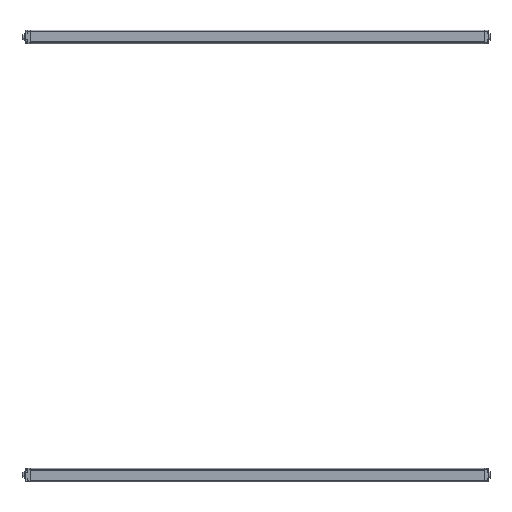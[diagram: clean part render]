
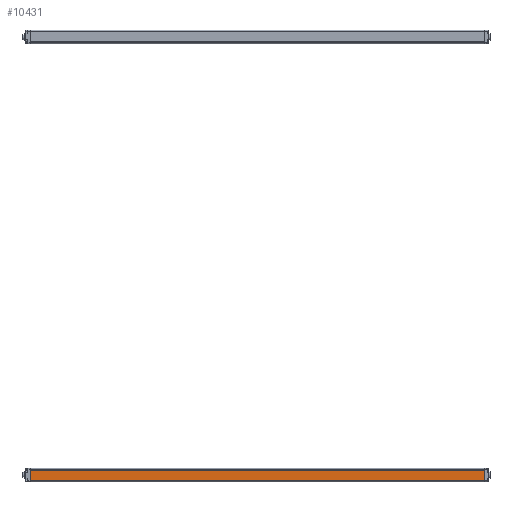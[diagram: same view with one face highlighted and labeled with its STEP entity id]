
A CAD part, front view. The second image highlights one B-rep face of the part: STEP entity #10431.
In plain terms, the highlighted planar face has unit normal (0, -1, 0) as drawn and (0, 1, 0) by its records, which use the part's own axes.
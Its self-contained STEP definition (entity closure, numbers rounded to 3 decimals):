
#754=LINE('',#15338,#1927);
#824=LINE('',#15490,#1997);
#918=LINE('',#15690,#2091);
#919=LINE('',#15691,#2092);
#1927=VECTOR('',#12160,1000.);
#1997=VECTOR('',#12258,1000.);
#2091=VECTOR('',#12444,1000.);
#2092=VECTOR('',#12445,1000.);
#3410=ORIENTED_EDGE('',*,*,#6192,.F.);
#3411=ORIENTED_EDGE('',*,*,#6294,.F.);
#3412=ORIENTED_EDGE('',*,*,#6115,.T.);
#3413=ORIENTED_EDGE('',*,*,#6295,.T.);
#6115=EDGE_CURVE('',#7621,#7620,#754,.T.);
#6192=EDGE_CURVE('',#7688,#7689,#824,.T.);
#6294=EDGE_CURVE('',#7621,#7688,#918,.T.);
#6295=EDGE_CURVE('',#7620,#7689,#919,.T.);
#7620=VERTEX_POINT('',#15337);
#7621=VERTEX_POINT('',#15339);
#7688=VERTEX_POINT('',#15489);
#7689=VERTEX_POINT('',#15491);
#8881=EDGE_LOOP('',(#3410,#3411,#3412,#3413));
#9465=FACE_BOUND('',#8881,.T.);
#10046=PLANE('',#11081);
#10431=ADVANCED_FACE('',(#9465),#10046,.T.);
#11081=AXIS2_PLACEMENT_3D('',#15689,#12442,#12443);
#12160=DIRECTION('',(0.,0.,1.));
#12258=DIRECTION('',(0.,0.,1.));
#12442=DIRECTION('',(0.,1.,0.));
#12443=DIRECTION('',(0.,0.,-1.));
#12444=DIRECTION('',(1.,0.,0.));
#12445=DIRECTION('',(1.,0.,0.));
#15337=CARTESIAN_POINT('',(0.,15.15,12.));
#15338=CARTESIAN_POINT('',(0.,15.15,-12.));
#15339=CARTESIAN_POINT('',(0.,15.15,-12.));
#15489=CARTESIAN_POINT('',(1065.,15.15,-12.));
#15490=CARTESIAN_POINT('',(1065.,15.15,0.));
#15491=CARTESIAN_POINT('',(1065.,15.15,12.));
#15689=CARTESIAN_POINT('',(0.,15.15,-15.65));
#15690=CARTESIAN_POINT('',(0.,15.15,-12.));
#15691=CARTESIAN_POINT('',(0.,15.15,12.));
